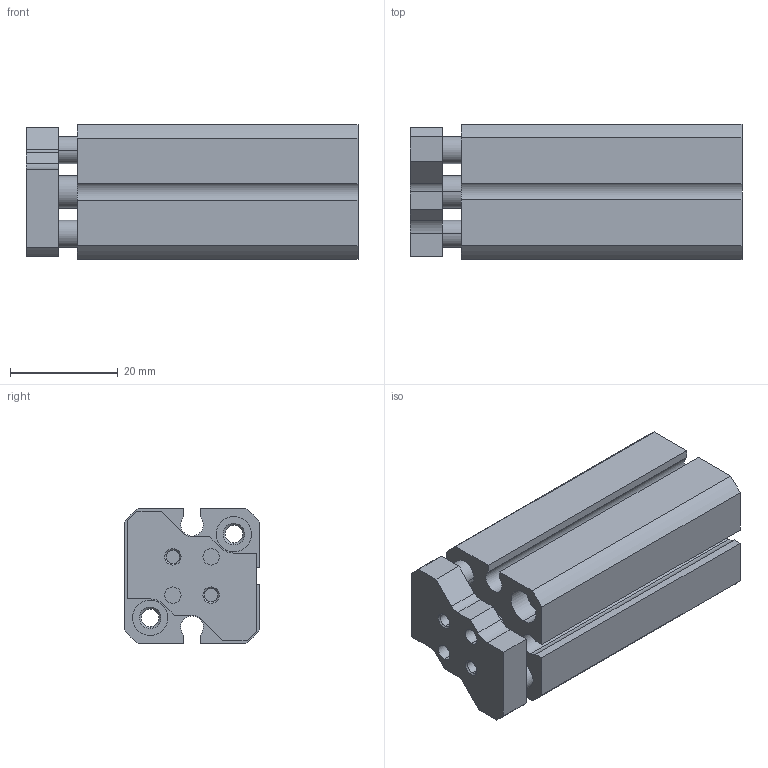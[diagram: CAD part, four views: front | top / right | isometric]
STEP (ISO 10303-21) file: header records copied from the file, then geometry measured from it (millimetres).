
FILE_DESCRIPTION (( 'STEP AP203' ), '1' );
FILE_NAME ('CCMG12-30.STEP', '2020-04-01T17:49:37', ( '' ), ( '' ), 'SwSTEP 2.0', 'SolidWorks 2019', '' );
FILE_SCHEMA (( 'CONFIG_CONTROL_DESIGN' ));
Length unit declared in the file: millimetre
Products named in the file (1): CCMG12-30
Bounding box: 61.5 x 25 x 25 mm (x, y, z)
Volume: 27640.5 mm3; surface area: 16201 mm2
Topology: 2 solids, 2 shells, 133 faces, 315 edges, 200 vertices
Faces by surface type: cylinder 64, plane 45, cone 24
Entity records: 3936 total; most frequent: DIRECTION 727, CARTESIAN_POINT 645, ORIENTED_EDGE 622, EDGE_CURVE 311, AXIS2_PLACEMENT_3D 282, VERTEX_POINT 200, EDGE_LOOP 163, LINE 163
